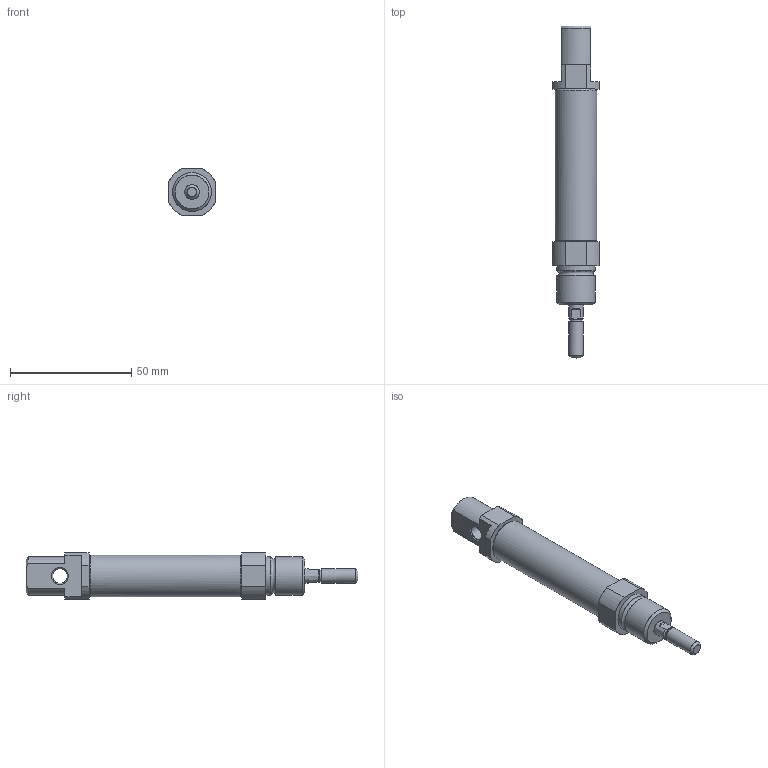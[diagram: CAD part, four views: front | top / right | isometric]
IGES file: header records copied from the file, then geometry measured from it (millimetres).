
Start section: SolidWorks IGES file using analytic representation for surfaces SolidWorks IGES file using analytic representation for surfaces
Global section: file name: d:\users\prof\Desktop\cilIGS.igs; native system: Rhinoceros ( Jul  9 2009 ); preprocessor: Trout Lake IGES 012 Jul  9 2009; date: 120703.093039; units: millimetre
Bounding box: 19 x 137 x 19 mm (x, y, z)
Surface area: 7969.5 mm2 (no closed solid volume)
Topology: 0 solids, 0 shells, 60 faces, 378 edges, 378 vertices
Faces by surface type: bspline 60
